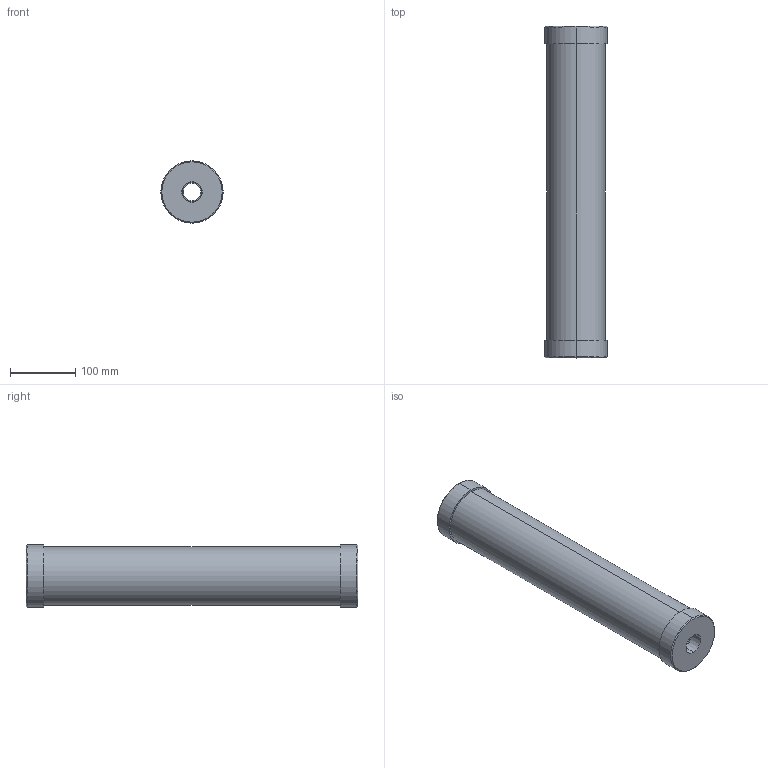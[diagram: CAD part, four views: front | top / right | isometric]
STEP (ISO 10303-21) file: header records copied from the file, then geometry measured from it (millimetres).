
FILE_DESCRIPTION (( 'STEP AP203' ), '1' );
FILE_NAME ('CC2000_P_BSPT.STEP', '2016-03-21T09:38:23', ( '' ), ( '' ), 'SwSTEP 2.0', 'SolidWorks 2014', '' );
FILE_SCHEMA (( 'CONFIG_CONTROL_DESIGN' ));
Length unit declared in the file: inch
Products named in the file (2): CC2000_P_BSPT
Bounding box: 95.25 x 508 x 95.25 mm (x, y, z)
Volume: 1034402 mm3; surface area: 280781.9 mm2
Topology: 1 solids, 1 shells, 28 faces, 56 edges, 36 vertices
Faces by surface type: cylinder 12, cone 8, plane 8
Entity records: 905 total; most frequent: DIRECTION 152, CARTESIAN_POINT 122, ORIENTED_EDGE 112, AXIS2_PLACEMENT_3D 66, EDGE_CURVE 56, VERTEX_POINT 36, EDGE_LOOP 36, CIRCLE 36
